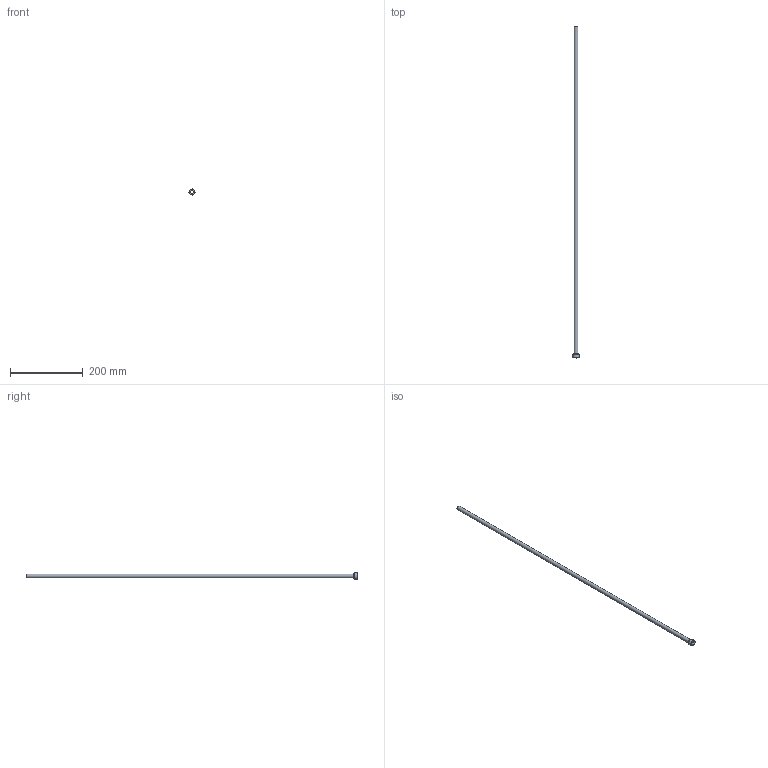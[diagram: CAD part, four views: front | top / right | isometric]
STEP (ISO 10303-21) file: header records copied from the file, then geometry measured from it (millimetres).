
FILE_DESCRIPTION(/* description */ (''),/* implementation_level */ '2;1');
FILE_NAME(/* name */ 'C:/Users/drich/Desktop/PT38-437-36 v1.step',/* time_stamp */ '2019-12-27T15:57:39-06:00',/* author */ (''),/* organization */ (''),/* preprocessor_version */ 'ST-DEVELOPER v18',/* originating_system */ 'Autodesk Translation Framework v8.12.0.6',/* authorisation */ '');
FILE_SCHEMA (('AUTOMOTIVE_DESIGN { 1 0 10303 214 3 1 1 }'));
Length unit declared in the file: inch
Products named in the file (1): PT38-437-36
Bounding box: 16.54 x 914.4 x 16.54 mm (x, y, z)
Volume: 12462.3 mm3; surface area: 60490.6 mm2
Topology: 1 solids, 1 shells, 30 faces, 71 edges, 45 vertices
Faces by surface type: plane 22, cylinder 4, torus 2, cone 2
Full cylindrical faces by diameter (mm): 10.084 x1, 10.82 x1, 13.868 x1, 16.537 x1
Entity records: 913 total; most frequent: DIRECTION 168, CARTESIAN_POINT 147, ORIENTED_EDGE 142, EDGE_CURVE 71, AXIS2_PLACEMENT_3D 66, VERTEX_POINT 45, LINE 36, VECTOR 36
